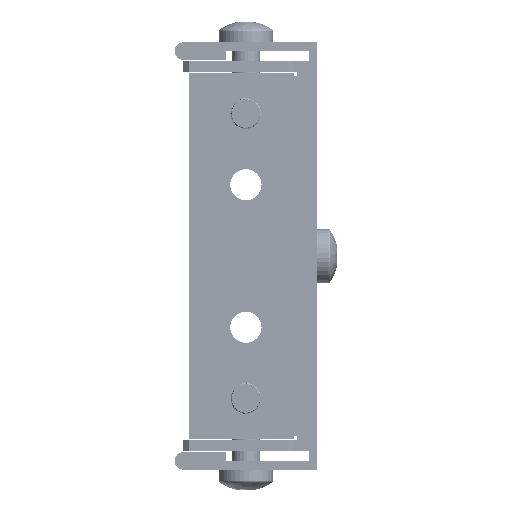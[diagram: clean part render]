
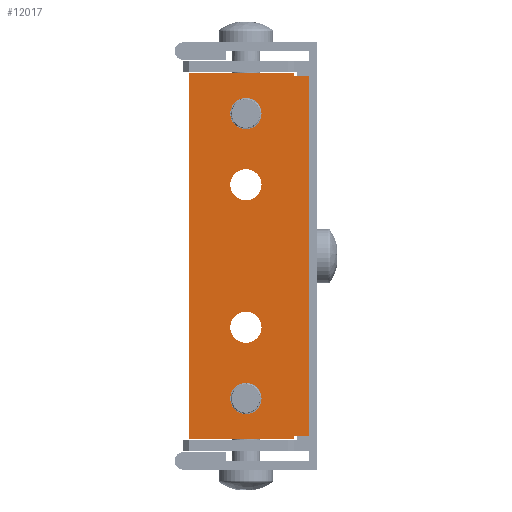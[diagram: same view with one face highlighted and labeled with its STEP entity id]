
A CAD part, front view. The second image highlights one B-rep face of the part: STEP entity #12017.
In plain terms, the highlighted planar face has unit normal (0, -1, 0).
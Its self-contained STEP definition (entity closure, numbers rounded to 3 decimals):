
#11289 = VERTEX_POINT('',#11290);
#11290 = CARTESIAN_POINT('',(-1.5,0.,69.15));
#11296 = EDGE_CURVE('',#11297,#11289,#11299,.T.);
#11297 = VERTEX_POINT('',#11298);
#11298 = CARTESIAN_POINT('',(-1.5,0.,5.85));
#11299 = LINE('',#11300,#11301);
#11300 = CARTESIAN_POINT('',(-1.5,0.,37.5));
#11301 = VECTOR('',#11302,1.);
#11302 = DIRECTION('',(0.,0.,1.));
#11958 = VERTEX_POINT('',#11959);
#11959 = CARTESIAN_POINT('',(-4.1,0.,5.85));
#11974 = EDGE_CURVE('',#11958,#11297,#11975,.T.);
#11975 = LINE('',#11976,#11977);
#11976 = CARTESIAN_POINT('',(-1.5,0.,5.85));
#11977 = VECTOR('',#11978,1.);
#11978 = DIRECTION('',(1.,0.,0.));
#11999 = VERTEX_POINT('',#12000);
#12000 = CARTESIAN_POINT('',(-4.1,0.,69.15));
#12006 = EDGE_CURVE('',#11999,#11289,#12007,.T.);
#12007 = LINE('',#12008,#12009);
#12008 = CARTESIAN_POINT('',(-4.1,0.,69.15));
#12009 = VECTOR('',#12010,1.);
#12010 = DIRECTION('',(1.,0.,0.));
#12017 = ADVANCED_FACE('',(#12018,#12029,#12040,#12051,#12062),#12105,
  .T.);
#12018 = FACE_BOUND('',#12019,.T.);
#12019 = EDGE_LOOP('',(#12020));
#12020 = ORIENTED_EDGE('',*,*,#12021,.T.);
#12021 = EDGE_CURVE('',#12022,#12022,#12024,.T.);
#12022 = VERTEX_POINT('',#12023);
#12023 = CARTESIAN_POINT('',(-9.75,0.,62.5));
#12024 = CIRCLE('',#12025,2.75);
#12025 = AXIS2_PLACEMENT_3D('',#12026,#12027,#12028);
#12026 = CARTESIAN_POINT('',(-12.5,0.,62.5));
#12027 = DIRECTION('',(0.,1.,0.));
#12028 = DIRECTION('',(1.,0.,0.));
#12029 = FACE_BOUND('',#12030,.T.);
#12030 = EDGE_LOOP('',(#12031));
#12031 = ORIENTED_EDGE('',*,*,#12032,.T.);
#12032 = EDGE_CURVE('',#12033,#12033,#12035,.T.);
#12033 = VERTEX_POINT('',#12034);
#12034 = CARTESIAN_POINT('',(-15.25,0.,25.));
#12035 = CIRCLE('',#12036,2.75);
#12036 = AXIS2_PLACEMENT_3D('',#12037,#12038,#12039);
#12037 = CARTESIAN_POINT('',(-12.5,0.,25.));
#12038 = DIRECTION('',(0.,1.,0.));
#12039 = DIRECTION('',(-1.,0.,0.));
#12040 = FACE_BOUND('',#12041,.T.);
#12041 = EDGE_LOOP('',(#12042));
#12042 = ORIENTED_EDGE('',*,*,#12043,.T.);
#12043 = EDGE_CURVE('',#12044,#12044,#12046,.T.);
#12044 = VERTEX_POINT('',#12045);
#12045 = CARTESIAN_POINT('',(-15.25,0.,12.5));
#12046 = CIRCLE('',#12047,2.75);
#12047 = AXIS2_PLACEMENT_3D('',#12048,#12049,#12050);
#12048 = CARTESIAN_POINT('',(-12.5,0.,12.5));
#12049 = DIRECTION('',(0.,1.,0.));
#12050 = DIRECTION('',(-1.,0.,0.));
#12051 = FACE_BOUND('',#12052,.T.);
#12052 = EDGE_LOOP('',(#12053));
#12053 = ORIENTED_EDGE('',*,*,#12054,.T.);
#12054 = EDGE_CURVE('',#12055,#12055,#12057,.T.);
#12055 = VERTEX_POINT('',#12056);
#12056 = CARTESIAN_POINT('',(-9.75,0.,50.));
#12057 = CIRCLE('',#12058,2.75);
#12058 = AXIS2_PLACEMENT_3D('',#12059,#12060,#12061);
#12059 = CARTESIAN_POINT('',(-12.5,0.,50.));
#12060 = DIRECTION('',(0.,1.,0.));
#12061 = DIRECTION('',(1.,0.,0.));
#12062 = FACE_BOUND('',#12063,.T.);
#12063 = EDGE_LOOP('',(#12064,#12074,#12082,#12088,#12089,#12090,#12091,
    #12099));
#12064 = ORIENTED_EDGE('',*,*,#12065,.F.);
#12065 = EDGE_CURVE('',#12066,#12068,#12070,.T.);
#12066 = VERTEX_POINT('',#12067);
#12067 = CARTESIAN_POINT('',(-22.5,0.,5.35));
#12068 = VERTEX_POINT('',#12069);
#12069 = CARTESIAN_POINT('',(-22.5,0.,69.65));
#12070 = LINE('',#12071,#12072);
#12071 = CARTESIAN_POINT('',(-22.5,0.,69.15));
#12072 = VECTOR('',#12073,1.);
#12073 = DIRECTION('',(0.,0.,1.));
#12074 = ORIENTED_EDGE('',*,*,#12075,.F.);
#12075 = EDGE_CURVE('',#12076,#12066,#12078,.T.);
#12076 = VERTEX_POINT('',#12077);
#12077 = CARTESIAN_POINT('',(-4.1,0.,5.35));
#12078 = LINE('',#12079,#12080);
#12079 = CARTESIAN_POINT('',(-4.1,0.,5.35));
#12080 = VECTOR('',#12081,1.);
#12081 = DIRECTION('',(-1.,0.,0.));
#12082 = ORIENTED_EDGE('',*,*,#12083,.F.);
#12083 = EDGE_CURVE('',#11958,#12076,#12084,.T.);
#12084 = LINE('',#12085,#12086);
#12085 = CARTESIAN_POINT('',(-4.1,0.,5.85));
#12086 = VECTOR('',#12087,1.);
#12087 = DIRECTION('',(0.,0.,-1.));
#12088 = ORIENTED_EDGE('',*,*,#11974,.T.);
#12089 = ORIENTED_EDGE('',*,*,#11296,.T.);
#12090 = ORIENTED_EDGE('',*,*,#12006,.F.);
#12091 = ORIENTED_EDGE('',*,*,#12092,.T.);
#12092 = EDGE_CURVE('',#11999,#12093,#12095,.T.);
#12093 = VERTEX_POINT('',#12094);
#12094 = CARTESIAN_POINT('',(-4.1,0.,69.65));
#12095 = LINE('',#12096,#12097);
#12096 = CARTESIAN_POINT('',(-4.1,0.,69.15));
#12097 = VECTOR('',#12098,1.);
#12098 = DIRECTION('',(0.,0.,1.));
#12099 = ORIENTED_EDGE('',*,*,#12100,.T.);
#12100 = EDGE_CURVE('',#12093,#12068,#12101,.T.);
#12101 = LINE('',#12102,#12103);
#12102 = CARTESIAN_POINT('',(-4.1,0.,69.65));
#12103 = VECTOR('',#12104,1.);
#12104 = DIRECTION('',(-1.,0.,0.));
#12105 = PLANE('',#12106);
#12106 = AXIS2_PLACEMENT_3D('',#12107,#12108,#12109);
#12107 = CARTESIAN_POINT('',(-1.5,0.,37.5));
#12108 = DIRECTION('',(0.,-1.,0.));
#12109 = DIRECTION('',(-1.,0.,0.));
